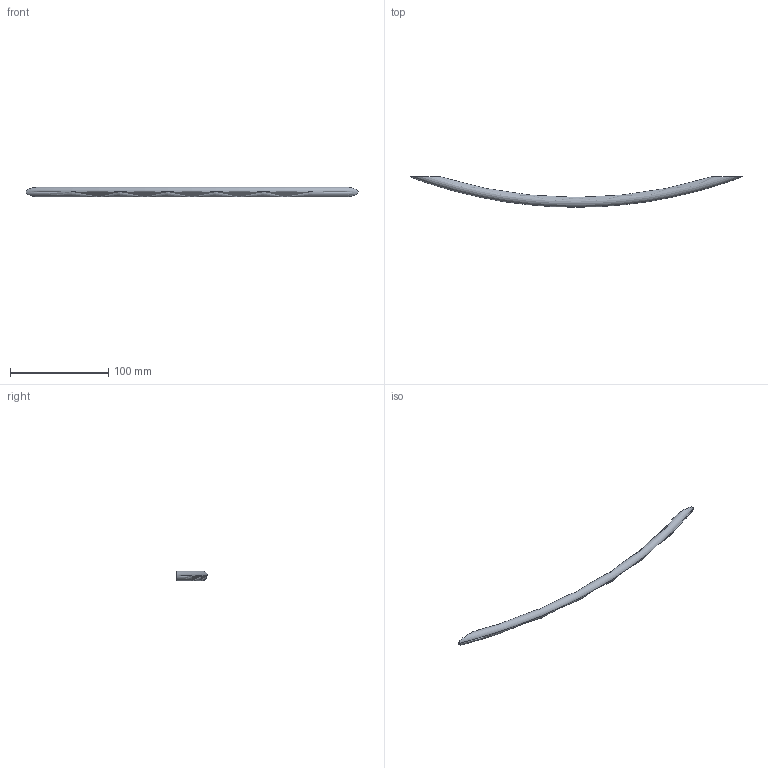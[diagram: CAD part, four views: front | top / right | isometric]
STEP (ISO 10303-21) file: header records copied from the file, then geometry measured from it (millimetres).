
FILE_DESCRIPTION( ( '' ), '1' );
FILE_NAME( 'D:/HETTCAD 2014/DATA TRANSFER/AUTOCAD EXPORT/SENT/Sheet correction/prodecor nicia/9070985/9070724.stp', '2014-08-27T09:40:44', ( '' ), ( '' ), ' ', ' ', ' ' );
FILE_SCHEMA( ( 'CONFIG_CONTROL_DESIGN' ) );
Length unit declared in the file: millimetre
Products named in the file (1): 1
Bounding box: 338 x 30.92 x 9.98 mm (x, y, z)
Volume: 24525.9 mm3; surface area: 10491.9 mm2
Topology: 1 solids, 1 shells, 10 faces, 18 edges, 12 vertices
Faces by surface type: cylinder 4, plane 4, torus 2
Entity records: 452 total; most frequent: CARTESIAN_POINT 205, DIRECTION 46, ORIENTED_EDGE 36, AXIS2_PLACEMENT_3D 21, EDGE_CURVE 18, EDGE_LOOP 12, VERTEX_POINT 12, ADVANCED_FACE 10
